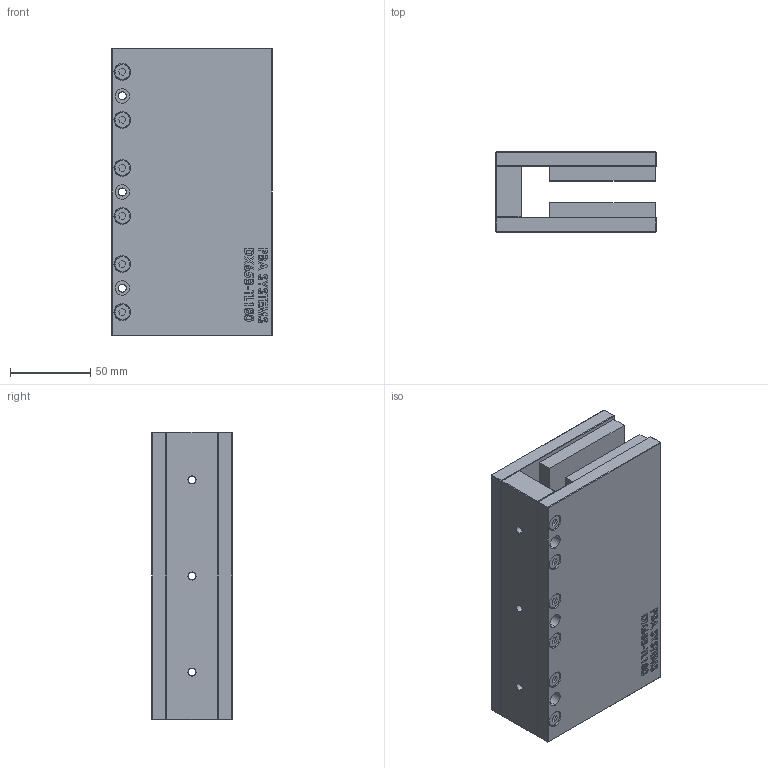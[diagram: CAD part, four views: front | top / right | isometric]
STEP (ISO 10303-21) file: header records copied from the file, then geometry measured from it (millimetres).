
FILE_DESCRIPTION (( 'STEP AP214' ), '1' );
FILE_NAME ('DX65B-TL180.STEP', '2016-05-11T10:13:26', ( '' ), ( '' ), 'SwSTEP 2.0', 'SolidWorks 2015', '' );
FILE_SCHEMA (( 'AUTOMOTIVE_DESIGN' ));
Length unit declared in the file: millimetre
Products named in the file (5): M6X12 DIN7984 STAINLESS STEEL; DX65B-0000-001_CUSTOMER_TL180; DX65B-TL180-002_TL180; DX65B-TL180-001_TL180; DX65B-TL180
Assembly tree (17 placements, depth 2):
  DX65B-TL180
    DX65B-TL180-001_TL180
    DX65B-TL180-002_TL180  x2
    DX65B-0000-001_CUSTOMER_TL180  x2
    M6X12 DIN7984 STAINLESS STEEL  x12
Bounding box: 100 x 50 x 179.5 mm (x, y, z)
Volume: 612776.1 mm3; surface area: 167785.7 mm2
Topology: 17 solids, 17 shells, 976 faces, 2394 edges, 1546 vertices
Faces by surface type: plane 558, bspline 226, cylinder 144, cone 24, torus 24
Entity records: 19077 total; most frequent: CARTESIAN_POINT 8729, ORIENTED_EDGE 2158, DIRECTION 1635, EDGE_CURVE 1079, VECTOR 719, LINE 719, VERTEX_POINT 692, EDGE_LOOP 511
